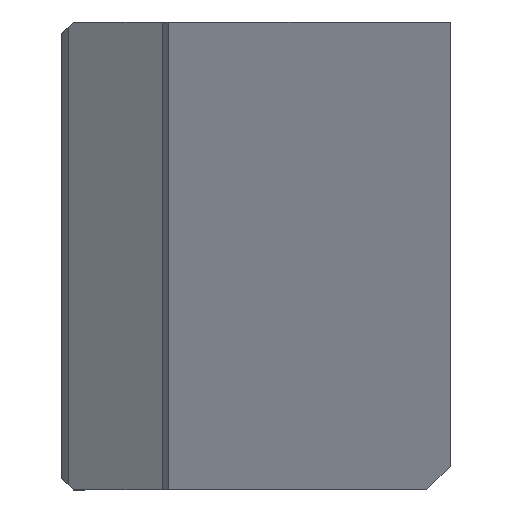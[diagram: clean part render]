
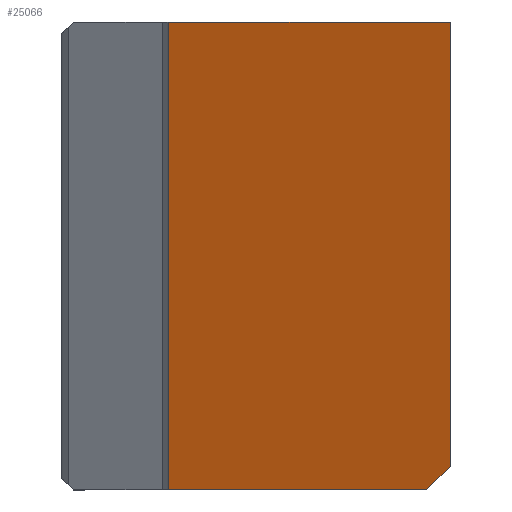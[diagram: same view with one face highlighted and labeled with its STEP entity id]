
A CAD part, left-side view. The second image highlights one B-rep face of the part: STEP entity #25066.
In plain terms, the highlighted planar face has unit normal (-0.943, 0, -0.334).
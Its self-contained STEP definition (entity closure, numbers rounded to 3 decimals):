
#1017 = ORIENTED_EDGE ( 'NONE', *, *, #15805, .T. ) ;
#1033 = FACE_OUTER_BOUND ( 'NONE', #10800, .T. ) ;
#1556 = CARTESIAN_POINT ( 'NONE',  ( 20.926, 0., -59. ) ) ;
#2372 = DIRECTION ( 'NONE',  ( -0.334, 0., 0.942 ) ) ;
#3000 = LINE ( 'NONE', #14264, #14409 ) ;
#3026 = VERTEX_POINT ( 'NONE', #5760 ) ;
#3583 = CARTESIAN_POINT ( 'NONE',  ( 9.343, -29.657, -26.343 ) ) ;
#5097 = VECTOR ( 'NONE', #12503, 1000. ) ;
#5760 = CARTESIAN_POINT ( 'NONE',  ( 20.926, 3., -59. ) ) ;
#6017 = VECTOR ( 'NONE', #15613, 1000. ) ;
#9127 = PLANE ( 'NONE',  #20709 ) ;
#9222 = CARTESIAN_POINT ( 'NONE',  ( 20.926, 35.5, -59. ) ) ;
#9224 = ORIENTED_EDGE ( 'NONE', *, *, #11688, .F. ) ;
#10094 = DIRECTION ( 'NONE',  ( -0.942, 0., -0.334 ) ) ;
#10401 = VERTEX_POINT ( 'NONE', #16979 ) ;
#10474 = DIRECTION ( 'NONE',  ( 0.334, 0., -0.942 ) ) ;
#10800 = EDGE_LOOP ( 'NONE', ( #26330, #1017, #27150, #9224, #17902 ) ) ;
#11202 = VERTEX_POINT ( 'NONE', #16207 ) ;
#11688 = EDGE_CURVE ( 'NONE', #13293, #10401, #3000, .T. ) ;
#11930 = DIRECTION ( 'NONE',  ( 0., -1., 0. ) ) ;
#12335 = CARTESIAN_POINT ( 'NONE',  ( 0., 35.5, 0. ) ) ;
#12503 = DIRECTION ( 'NONE',  ( -0.243, -0.686, 0.686 ) ) ;
#12519 = LINE ( 'NONE', #1556, #28105 ) ;
#13293 = VERTEX_POINT ( 'NONE', #12335 ) ;
#13702 = CARTESIAN_POINT ( 'NONE',  ( 0., 35.5, 0. ) ) ;
#14264 = CARTESIAN_POINT ( 'NONE',  ( 0., 49., 0. ) ) ;
#14409 = VECTOR ( 'NONE', #11930, 1000. ) ;
#14701 = LINE ( 'NONE', #3583, #5097 ) ;
#15613 = DIRECTION ( 'NONE',  ( -0.334, 0., 0.942 ) ) ;
#15805 = EDGE_CURVE ( 'NONE', #3026, #11202, #14701, .T. ) ;
#16207 = CARTESIAN_POINT ( 'NONE',  ( 19.862, 0., -56. ) ) ;
#16979 = CARTESIAN_POINT ( 'NONE',  ( 0., 0., 0. ) ) ;
#16994 = VECTOR ( 'NONE', #22251, 1000. ) ;
#17140 = EDGE_CURVE ( 'NONE', #27424, #13293, #28849, .T. ) ;
#17321 = CARTESIAN_POINT ( 'NONE',  ( 20.926, 49., -59. ) ) ;
#17902 = ORIENTED_EDGE ( 'NONE', *, *, #17140, .F. ) ;
#19937 = LINE ( 'NONE', #17321, #16994 ) ;
#20245 = EDGE_CURVE ( 'NONE', #10401, #11202, #12519, .T. ) ;
#20709 = AXIS2_PLACEMENT_3D ( 'NONE', #27585, #10094, #2372 ) ;
#22251 = DIRECTION ( 'NONE',  ( 0., 1., 0. ) ) ;
#24896 = EDGE_CURVE ( 'NONE', #3026, #27424, #19937, .T. ) ;
#25066 = ADVANCED_FACE ( 'NONE', ( #1033 ), #9127, .T. ) ;
#26330 = ORIENTED_EDGE ( 'NONE', *, *, #24896, .F. ) ;
#27150 = ORIENTED_EDGE ( 'NONE', *, *, #20245, .F. ) ;
#27424 = VERTEX_POINT ( 'NONE', #9222 ) ;
#27585 = CARTESIAN_POINT ( 'NONE',  ( 0., 0., 0. ) ) ;
#28105 = VECTOR ( 'NONE', #10474, 1000. ) ;
#28849 = LINE ( 'NONE', #13702, #6017 ) ;
